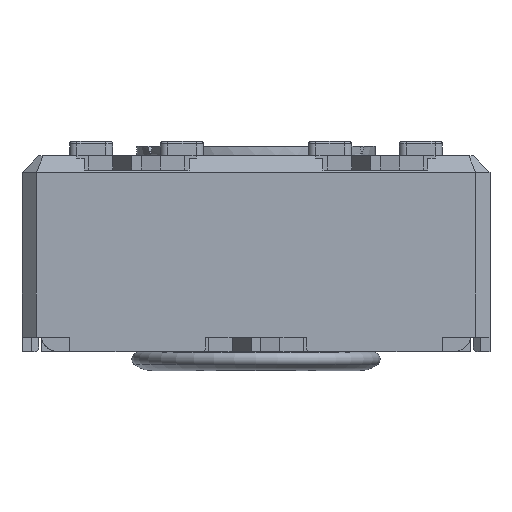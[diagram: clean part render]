
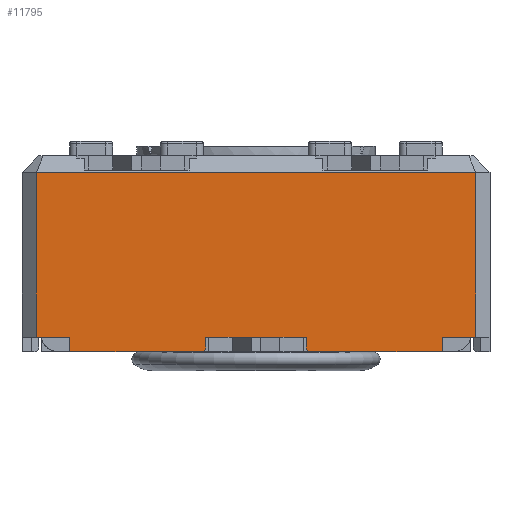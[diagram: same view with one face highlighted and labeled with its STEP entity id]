
A CAD part, front view. The second image highlights one B-rep face of the part: STEP entity #11795.
In plain terms, the highlighted planar face has unit normal (0, -1, 0).
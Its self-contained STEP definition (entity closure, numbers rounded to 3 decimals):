
#1025=FACE_OUTER_BOUND('',#1632,.T.);
#1632=EDGE_LOOP('',(#10386,#10387,#10388,#10389,#10390,#10391,#10392,#10393,
#10394,#10395,#10396,#10397,#10398,#10399,#10400,#10401));
#2199=LINE('',#17107,#3575);
#2301=LINE('',#17323,#3677);
#2307=LINE('',#17335,#3683);
#2315=LINE('',#17351,#3691);
#2321=LINE('',#17362,#3697);
#2486=LINE('',#17885,#3862);
#2492=LINE('',#17895,#3868);
#2495=LINE('',#17902,#3871);
#2508=LINE('',#17927,#3884);
#2564=LINE('',#18035,#3940);
#2566=LINE('',#18040,#3942);
#2568=LINE('',#18043,#3944);
#2570=LINE('',#18048,#3946);
#2756=LINE('',#18493,#4132);
#2999=LINE('',#19054,#4375);
#3001=LINE('',#19061,#4377);
#3575=VECTOR('',#13860,10.);
#3677=VECTOR('',#14040,10.);
#3683=VECTOR('',#14046,10.);
#3691=VECTOR('',#14056,10.);
#3697=VECTOR('',#14062,10.);
#3862=VECTOR('',#14537,10.);
#3868=VECTOR('',#14545,10.);
#3871=VECTOR('',#14552,10.);
#3884=VECTOR('',#14573,10.);
#3940=VECTOR('',#14673,10.);
#3942=VECTOR('',#14681,10.);
#3944=VECTOR('',#14685,10.);
#3946=VECTOR('',#14693,10.);
#4132=VECTOR('',#15117,10.);
#4375=VECTOR('',#15656,10.);
#4377=VECTOR('',#15668,10.);
#4874=VERTEX_POINT('',#17101);
#4875=VERTEX_POINT('',#17105);
#4950=VERTEX_POINT('',#17322);
#4955=VERTEX_POINT('',#17332);
#4956=VERTEX_POINT('',#17334);
#4962=VERTEX_POINT('',#17348);
#4963=VERTEX_POINT('',#17350);
#4968=VERTEX_POINT('',#17360);
#5116=VERTEX_POINT('',#17883);
#5117=VERTEX_POINT('',#17884);
#5120=VERTEX_POINT('',#17893);
#5121=VERTEX_POINT('',#17900);
#5122=VERTEX_POINT('',#17901);
#5130=VERTEX_POINT('',#17926);
#5275=VERTEX_POINT('',#18490);
#5276=VERTEX_POINT('',#18492);
#6150=EDGE_CURVE('',#4874,#4875,#2199,.T.);
#6258=EDGE_CURVE('',#4950,#4874,#2301,.T.);
#6264=EDGE_CURVE('',#4956,#4955,#2307,.T.);
#6272=EDGE_CURVE('',#4963,#4962,#2315,.T.);
#6278=EDGE_CURVE('',#4875,#4968,#2321,.T.);
#6521=EDGE_CURVE('',#5116,#5117,#2486,.T.);
#6527=EDGE_CURVE('',#5116,#5120,#2492,.T.);
#6530=EDGE_CURVE('',#5121,#5122,#2495,.T.);
#6543=EDGE_CURVE('',#5130,#5122,#2508,.T.);
#6599=EDGE_CURVE('',#4950,#5121,#2564,.T.);
#6601=EDGE_CURVE('',#4955,#5130,#2566,.T.);
#6603=EDGE_CURVE('',#4963,#5120,#2568,.T.);
#6605=EDGE_CURVE('',#4968,#5117,#2570,.T.);
#6825=EDGE_CURVE('',#5275,#5276,#2756,.T.);
#7104=EDGE_CURVE('',#5276,#4962,#2999,.T.);
#7106=EDGE_CURVE('',#5275,#4956,#3001,.T.);
#10386=ORIENTED_EDGE('',*,*,#6521,.F.);
#10387=ORIENTED_EDGE('',*,*,#6527,.T.);
#10388=ORIENTED_EDGE('',*,*,#6603,.F.);
#10389=ORIENTED_EDGE('',*,*,#6272,.T.);
#10390=ORIENTED_EDGE('',*,*,#7104,.F.);
#10391=ORIENTED_EDGE('',*,*,#6825,.F.);
#10392=ORIENTED_EDGE('',*,*,#7106,.T.);
#10393=ORIENTED_EDGE('',*,*,#6264,.T.);
#10394=ORIENTED_EDGE('',*,*,#6601,.T.);
#10395=ORIENTED_EDGE('',*,*,#6543,.T.);
#10396=ORIENTED_EDGE('',*,*,#6530,.F.);
#10397=ORIENTED_EDGE('',*,*,#6599,.F.);
#10398=ORIENTED_EDGE('',*,*,#6258,.T.);
#10399=ORIENTED_EDGE('',*,*,#6150,.T.);
#10400=ORIENTED_EDGE('',*,*,#6278,.T.);
#10401=ORIENTED_EDGE('',*,*,#6605,.T.);
#11014=PLANE('',#12659);
#11795=ADVANCED_FACE('',(#1025),#11014,.T.);
#12659=AXIS2_PLACEMENT_3D('',#19062,#15669,#15670);
#13860=DIRECTION('',(1.,0.,0.));
#14040=DIRECTION('',(1.,0.,0.));
#14046=DIRECTION('',(1.,0.,0.));
#14056=DIRECTION('',(1.,0.,0.));
#14062=DIRECTION('',(1.,0.,0.));
#14537=DIRECTION('',(-0.707,0.,0.707));
#14545=DIRECTION('',(1.,0.,0.));
#14552=DIRECTION('',(-0.707,0.,-0.707));
#14573=DIRECTION('',(1.,0.,0.));
#14673=DIRECTION('',(0.,0.,-1.));
#14681=DIRECTION('',(0.,0.,-1.));
#14685=DIRECTION('',(0.,0.,-1.));
#14693=DIRECTION('',(0.,0.,-1.));
#15117=DIRECTION('',(1.,0.,0.));
#15656=DIRECTION('',(0.,0.,-1.));
#15668=DIRECTION('',(0.,0.,-1.));
#15669=DIRECTION('center_axis',(0.,-1.,0.));
#15670=DIRECTION('ref_axis',(0.,0.,-1.));
#17101=CARTESIAN_POINT('',(-27.448,-17.99,-3.8));
#17105=CARTESIAN_POINT('',(-25.448,-17.99,-3.8));
#17107=CARTESIAN_POINT('',(-21.848,-17.99,-3.8));
#17322=CARTESIAN_POINT('',(-27.498,-17.99,-3.8));
#17323=CARTESIAN_POINT('',(-21.848,-17.99,-3.8));
#17332=CARTESIAN_POINT('',(-30.348,-17.99,-3.8));
#17334=CARTESIAN_POINT('',(-31.048,-17.99,-3.8));
#17335=CARTESIAN_POINT('',(-21.848,-17.99,-3.8));
#17348=CARTESIAN_POINT('',(-21.848,-17.99,-3.8));
#17350=CARTESIAN_POINT('',(-22.548,-17.99,-3.8));
#17351=CARTESIAN_POINT('',(-21.848,-17.99,-3.8));
#17360=CARTESIAN_POINT('',(-25.398,-17.99,-3.8));
#17362=CARTESIAN_POINT('',(-21.848,-17.99,-3.8));
#17883=CARTESIAN_POINT('',(-25.348,-17.99,-4.1));
#17884=CARTESIAN_POINT('',(-25.398,-17.99,-4.05));
#17885=CARTESIAN_POINT('',(-27.81,-17.99,-1.637));
#17893=CARTESIAN_POINT('',(-22.548,-17.99,-4.1));
#17895=CARTESIAN_POINT('',(-21.848,-17.99,-4.1));
#17900=CARTESIAN_POINT('',(-27.498,-17.99,-4.05));
#17901=CARTESIAN_POINT('',(-27.548,-17.99,-4.1));
#17902=CARTESIAN_POINT('',(-27.385,-17.99,-3.938));
#17926=CARTESIAN_POINT('',(-30.348,-17.99,-4.1));
#17927=CARTESIAN_POINT('',(-21.848,-17.99,-4.1));
#18035=CARTESIAN_POINT('',(-27.498,-17.99,-3.8));
#18040=CARTESIAN_POINT('',(-30.348,-17.99,-3.8));
#18043=CARTESIAN_POINT('',(-22.548,-17.99,-3.8));
#18048=CARTESIAN_POINT('',(-25.398,-17.99,-3.8));
#18490=CARTESIAN_POINT('',(-31.048,-17.99,-0.35));
#18492=CARTESIAN_POINT('',(-21.848,-17.99,-0.35));
#18493=CARTESIAN_POINT('',(-28.748,-17.99,-0.35));
#19054=CARTESIAN_POINT('',(-21.848,-17.99,0.));
#19061=CARTESIAN_POINT('',(-31.048,-17.99,0.));
#19062=CARTESIAN_POINT('Origin',(-31.048,-17.99,0.));
